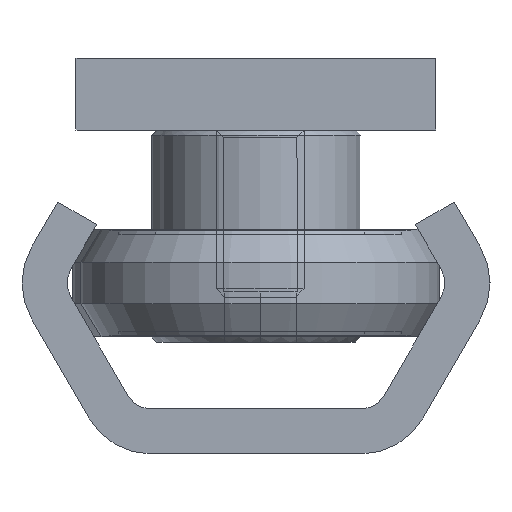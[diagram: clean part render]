
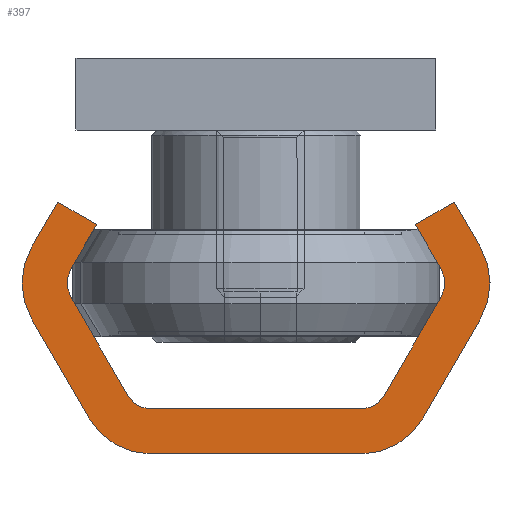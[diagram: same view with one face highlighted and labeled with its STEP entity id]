
A CAD part, left-side view. The second image highlights one B-rep face of the part: STEP entity #397.
In plain terms, the highlighted planar face has unit normal (-1, 0, 0).
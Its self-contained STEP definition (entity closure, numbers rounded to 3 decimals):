
#397 = ADVANCED_FACE( '', ( #887 ), #888, .F. );
#887 = FACE_OUTER_BOUND( '', #1691, .T. );
#888 = PLANE( '', #1692 );
#1691 = EDGE_LOOP( '', ( #2718, #2719, #2720, #2721, #2722, #2723, #2724, #2725, #2726, #2727, #2728, #2729, #2730, #2731, #2732, #2733, #2734, #2735, #2736, #2737 ) );
#1692 = AXIS2_PLACEMENT_3D( '', #2738, #2739, #2740 );
#2718 = ORIENTED_EDGE( '', *, *, #4039, .F. );
#2719 = ORIENTED_EDGE( '', *, *, #4040, .F. );
#2720 = ORIENTED_EDGE( '', *, *, #4041, .F. );
#2721 = ORIENTED_EDGE( '', *, *, #4042, .F. );
#2722 = ORIENTED_EDGE( '', *, *, #4043, .F. );
#2723 = ORIENTED_EDGE( '', *, *, #4044, .F. );
#2724 = ORIENTED_EDGE( '', *, *, #4045, .F. );
#2725 = ORIENTED_EDGE( '', *, *, #4046, .T. );
#2726 = ORIENTED_EDGE( '', *, *, #4047, .F. );
#2727 = ORIENTED_EDGE( '', *, *, #4048, .T. );
#2728 = ORIENTED_EDGE( '', *, *, #4049, .F. );
#2729 = ORIENTED_EDGE( '', *, *, #4050, .T. );
#2730 = ORIENTED_EDGE( '', *, *, #4051, .F. );
#2731 = ORIENTED_EDGE( '', *, *, #4052, .T. );
#2732 = ORIENTED_EDGE( '', *, *, #4053, .F. );
#2733 = ORIENTED_EDGE( '', *, *, #4054, .F. );
#2734 = ORIENTED_EDGE( '', *, *, #4001, .F. );
#2735 = ORIENTED_EDGE( '', *, *, #3931, .F. );
#2736 = ORIENTED_EDGE( '', *, *, #4055, .F. );
#2737 = ORIENTED_EDGE( '', *, *, #4056, .F. );
#2738 = CARTESIAN_POINT( '', ( 0., -5.825, -4. ) );
#2739 = DIRECTION( '', ( 1., 0., 0. ) );
#2740 = DIRECTION( '', ( 0., 0., -1. ) );
#3931 = EDGE_CURVE( '', #4472, #4473, #4474, .T. );
#4001 = EDGE_CURVE( '', #4473, #4591, #4592, .T. );
#4039 = EDGE_CURVE( '', #4654, #4655, #4656, .T. );
#4040 = EDGE_CURVE( '', #4657, #4654, #4658, .T. );
#4041 = EDGE_CURVE( '', #4659, #4657, #4660, .T. );
#4042 = EDGE_CURVE( '', #4661, #4659, #4662, .T. );
#4043 = EDGE_CURVE( '', #4663, #4661, #4664, .T. );
#4044 = EDGE_CURVE( '', #4665, #4663, #4666, .T. );
#4045 = EDGE_CURVE( '', #4667, #4665, #4668, .T. );
#4046 = EDGE_CURVE( '', #4667, #4669, #4670, .T. );
#4047 = EDGE_CURVE( '', #4671, #4669, #4672, .T. );
#4048 = EDGE_CURVE( '', #4671, #4673, #4674, .T. );
#4049 = EDGE_CURVE( '', #4675, #4673, #4676, .T. );
#4050 = EDGE_CURVE( '', #4675, #4677, #4678, .T. );
#4051 = EDGE_CURVE( '', #4679, #4677, #4680, .T. );
#4052 = EDGE_CURVE( '', #4679, #4681, #4682, .T. );
#4053 = EDGE_CURVE( '', #4683, #4681, #4684, .T. );
#4054 = EDGE_CURVE( '', #4591, #4683, #4685, .T. );
#4055 = EDGE_CURVE( '', #4686, #4472, #4687, .T. );
#4056 = EDGE_CURVE( '', #4655, #4686, #4688, .T. );
#4472 = VERTEX_POINT( '', #5274 );
#4473 = VERTEX_POINT( '', #5275 );
#4474 = CIRCLE( '', #5276, 4. );
#4591 = VERTEX_POINT( '', #5403 );
#4592 = LINE( '', #5404, #5405 );
#4654 = VERTEX_POINT( '', #5481 );
#4655 = VERTEX_POINT( '', #5482 );
#4656 = LINE( '', #5483, #5484 );
#4657 = VERTEX_POINT( '', #5485 );
#4658 = CIRCLE( '', #5486, 4. );
#4659 = VERTEX_POINT( '', #5487 );
#4660 = LINE( '', #5488, #5489 );
#4661 = VERTEX_POINT( '', #5490 );
#4662 = CIRCLE( '', #5491, 4. );
#4663 = VERTEX_POINT( '', #5492 );
#4664 = LINE( '', #5493, #5494 );
#4665 = VERTEX_POINT( '', #5495 );
#4666 = LINE( '', #5496, #5497 );
#4667 = VERTEX_POINT( '', #5498 );
#4668 = LINE( '', #5499, #5500 );
#4669 = VERTEX_POINT( '', #5501 );
#4670 = CIRCLE( '', #5502, 1.5 );
#4671 = VERTEX_POINT( '', #5503 );
#4672 = LINE( '', #5504, #5505 );
#4673 = VERTEX_POINT( '', #5506 );
#4674 = CIRCLE( '', #5507, 1.5 );
#4675 = VERTEX_POINT( '', #5508 );
#4676 = LINE( '', #5509, #5510 );
#4677 = VERTEX_POINT( '', #5511 );
#4678 = CIRCLE( '', #5512, 1.5 );
#4679 = VERTEX_POINT( '', #5513 );
#4680 = LINE( '', #5514, #5515 );
#4681 = VERTEX_POINT( '', #5516 );
#4682 = CIRCLE( '', #5517, 1.5 );
#4683 = VERTEX_POINT( '', #5518 );
#4684 = LINE( '', #5519, #5520 );
#4685 = LINE( '', #5521, #5522 );
#4686 = VERTEX_POINT( '', #5523 );
#4687 = LINE( '', #5524, #5525 );
#4688 = CIRCLE( '', #5526, 4. );
#5274 = CARTESIAN_POINT( '', ( 0., -12.464, -7.5 ) );
#5275 = CARTESIAN_POINT( '', ( 0., -12.464, -11.5 ) );
#5276 = AXIS2_PLACEMENT_3D( '', #6192, #6193, #6194 );
#5403 = CARTESIAN_POINT( '', ( 0., -11.021, -14. ) );
#5404 = CARTESIAN_POINT( '', ( 0., -12.464, -11.5 ) );
#5405 = VECTOR( '', #6328, 1000. );
#5481 = CARTESIAN_POINT( '', ( 0., 5.825, 0. ) );
#5482 = CARTESIAN_POINT( '', ( 0., -5.825, 0. ) );
#5483 = CARTESIAN_POINT( '', ( 0., 5.825, 0. ) );
#5484 = VECTOR( '', #6382, 1000. );
#5485 = CARTESIAN_POINT( '', ( 0., 9.289, -2. ) );
#5486 = AXIS2_PLACEMENT_3D( '', #6383, #6384, #6385 );
#5487 = CARTESIAN_POINT( '', ( 0., 12.464, -7.5 ) );
#5488 = CARTESIAN_POINT( '', ( 0., 12.464, -7.5 ) );
#5489 = VECTOR( '', #6386, 1000. );
#5490 = CARTESIAN_POINT( '', ( 0., 12.464, -11.5 ) );
#5491 = AXIS2_PLACEMENT_3D( '', #6387, #6388, #6389 );
#5492 = CARTESIAN_POINT( '', ( 0., 11.021, -14. ) );
#5493 = CARTESIAN_POINT( '', ( 0., 11.021, -14. ) );
#5494 = VECTOR( '', #6390, 1000. );
#5495 = CARTESIAN_POINT( '', ( 0., 8.856, -12.75 ) );
#5496 = CARTESIAN_POINT( '', ( 0., 8.856, -12.75 ) );
#5497 = VECTOR( '', #6391, 1000. );
#5498 = CARTESIAN_POINT( '', ( 0., 10.299, -10.25 ) );
#5499 = CARTESIAN_POINT( '', ( 0., 10.299, -10.25 ) );
#5500 = VECTOR( '', #6392, 1000. );
#5501 = CARTESIAN_POINT( '', ( 0., 10.299, -8.75 ) );
#5502 = AXIS2_PLACEMENT_3D( '', #6393, #6394, #6395 );
#5503 = CARTESIAN_POINT( '', ( 0., 7.124, -3.25 ) );
#5504 = CARTESIAN_POINT( '', ( 0., 7.124, -3.25 ) );
#5505 = VECTOR( '', #6396, 1000. );
#5506 = CARTESIAN_POINT( '', ( 0., 5.825, -2.5 ) );
#5507 = AXIS2_PLACEMENT_3D( '', #6397, #6398, #6399 );
#5508 = CARTESIAN_POINT( '', ( 0., -5.825, -2.5 ) );
#5509 = CARTESIAN_POINT( '', ( 0., -5.825, -2.5 ) );
#5510 = VECTOR( '', #6400, 1000. );
#5511 = CARTESIAN_POINT( '', ( 0., -7.124, -3.25 ) );
#5512 = AXIS2_PLACEMENT_3D( '', #6401, #6402, #6403 );
#5513 = CARTESIAN_POINT( '', ( 0., -10.299, -8.75 ) );
#5514 = CARTESIAN_POINT( '', ( 0., -10.299, -8.75 ) );
#5515 = VECTOR( '', #6404, 1000. );
#5516 = CARTESIAN_POINT( '', ( 0., -10.299, -10.25 ) );
#5517 = AXIS2_PLACEMENT_3D( '', #6405, #6406, #6407 );
#5518 = CARTESIAN_POINT( '', ( 0., -8.856, -12.75 ) );
#5519 = CARTESIAN_POINT( '', ( 0., -8.856, -12.75 ) );
#5520 = VECTOR( '', #6408, 1000. );
#5521 = CARTESIAN_POINT( '', ( 0., -11.021, -14. ) );
#5522 = VECTOR( '', #6409, 1000. );
#5523 = CARTESIAN_POINT( '', ( 0., -9.289, -2. ) );
#5524 = CARTESIAN_POINT( '', ( 0., -9.289, -2. ) );
#5525 = VECTOR( '', #6410, 1000. );
#5526 = AXIS2_PLACEMENT_3D( '', #6411, #6412, #6413 );
#6192 = CARTESIAN_POINT( '', ( 0., -9., -9.5 ) );
#6193 = DIRECTION( '', ( 1., 0., 0. ) );
#6194 = DIRECTION( '', ( 0., 0., -1. ) );
#6328 = DIRECTION( '', ( 0., 0.5, -0.866 ) );
#6382 = DIRECTION( '', ( 0., -1., 0. ) );
#6383 = CARTESIAN_POINT( '', ( 0., 5.825, -4. ) );
#6384 = DIRECTION( '', ( 1., 0., 0. ) );
#6385 = DIRECTION( '', ( 0., 0., -1. ) );
#6386 = DIRECTION( '', ( 0., -0.5, 0.866 ) );
#6387 = CARTESIAN_POINT( '', ( 0., 9., -9.5 ) );
#6388 = DIRECTION( '', ( 1., 0., 0. ) );
#6389 = DIRECTION( '', ( 0., 0., -1. ) );
#6390 = DIRECTION( '', ( 0., 0.5, 0.866 ) );
#6391 = DIRECTION( '', ( 0., 0.866, -0.5 ) );
#6392 = DIRECTION( '', ( 0., -0.5, -0.866 ) );
#6393 = CARTESIAN_POINT( '', ( 0., 9., -9.5 ) );
#6394 = DIRECTION( '', ( 1., 0., 0. ) );
#6395 = DIRECTION( '', ( 0., 0., -1. ) );
#6396 = DIRECTION( '', ( 0., 0.5, -0.866 ) );
#6397 = CARTESIAN_POINT( '', ( 0., 5.825, -4. ) );
#6398 = DIRECTION( '', ( 1., 0., 0. ) );
#6399 = DIRECTION( '', ( 0., 0., -1. ) );
#6400 = DIRECTION( '', ( 0., 1., 0. ) );
#6401 = CARTESIAN_POINT( '', ( 0., -5.825, -4. ) );
#6402 = DIRECTION( '', ( 1., 0., 0. ) );
#6403 = DIRECTION( '', ( 0., 0., -1. ) );
#6404 = DIRECTION( '', ( 0., 0.5, 0.866 ) );
#6405 = CARTESIAN_POINT( '', ( 0., -9., -9.5 ) );
#6406 = DIRECTION( '', ( 1., 0., 0. ) );
#6407 = DIRECTION( '', ( 0., 0., -1. ) );
#6408 = DIRECTION( '', ( 0., -0.5, 0.866 ) );
#6409 = DIRECTION( '', ( 0., 0.866, 0.5 ) );
#6410 = DIRECTION( '', ( 0., -0.5, -0.866 ) );
#6411 = CARTESIAN_POINT( '', ( 0., -5.825, -4. ) );
#6412 = DIRECTION( '', ( 1., 0., 0. ) );
#6413 = DIRECTION( '', ( 0., 0., -1. ) );
